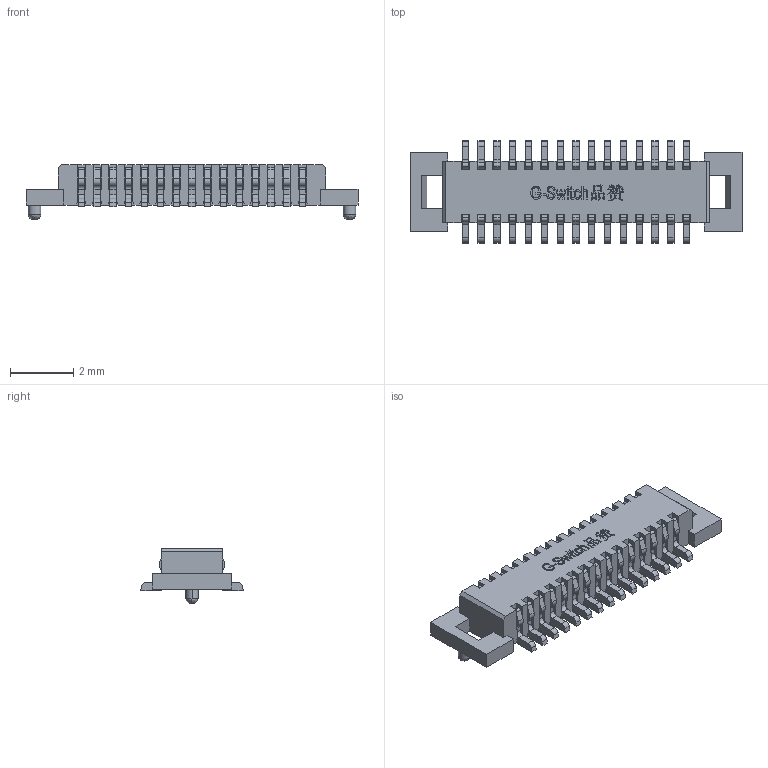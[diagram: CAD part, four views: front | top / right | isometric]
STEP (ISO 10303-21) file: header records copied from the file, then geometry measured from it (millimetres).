
FILE_DESCRIPTION (( 'STEP AP203' ), '1' );
FILE_NAME ('GT-B0504MSV12-30S1102.STEP', '2025-12-29T02:25:42', ( '' ), ( '' ), 'SwSTEP 2.0', 'SolidWorks 2020', '' );
FILE_SCHEMA (( 'CONFIG_CONTROL_DESIGN' ));
Products named in the file (1): GT-B0504MSV12-30S1102
Bounding box: 10.5 x 3.24 x 1.73 mm (x, y, z)
Volume: 22.6 mm3; surface area: 202.6 mm2
Topology: 1 solids, 1 shells, 1828 faces, 5448 edges, 3612 vertices
Faces by surface type: plane 1179, cylinder 574, bspline 75
Entity records: 65747 total; most frequent: CARTESIAN_POINT 16300, ORIENTED_EDGE 10896, DIRECTION 9758, EDGE_CURVE 5448, VECTOR 3818, LINE 3818, VERTEX_POINT 3612, AXIS2_PLACEMENT_3D 2970
